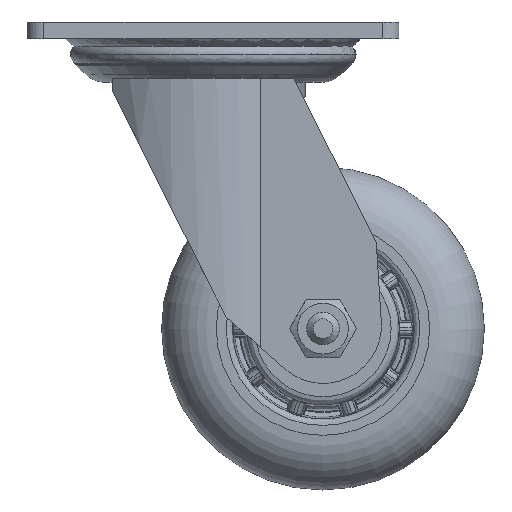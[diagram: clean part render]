
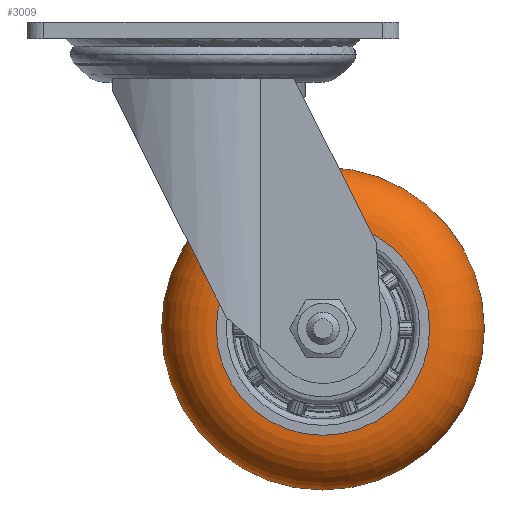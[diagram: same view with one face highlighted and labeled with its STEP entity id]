
A CAD part, front view. The second image highlights one B-rep face of the part: STEP entity #3009.
In plain terms, the highlighted toroidal (fillet/blend) face has major radius 33.066 mm and minor radius 16.934 mm.
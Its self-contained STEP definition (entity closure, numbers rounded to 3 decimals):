
#1221=TOROIDAL_SURFACE('',#15051,33.066,16.934);
#3009=ADVANCED_FACE('',(#4631,#4632),#1221,.T.);
#4322=CIRCLE('',#15016,33.066);
#4323=CIRCLE('',#15048,50.);
#4631=FACE_BOUND('',#5729,.T.);
#4632=FACE_BOUND('',#5730,.T.);
#5729=EDGE_LOOP('',(#9921));
#5730=EDGE_LOOP('',(#9922));
#9921=ORIENTED_EDGE('',*,*,#12878,.T.);
#9922=ORIENTED_EDGE('',*,*,#13349,.F.);
#11052=VERTEX_POINT('',#31759);
#11253=VERTEX_POINT('',#41012);
#12878=EDGE_CURVE('',#11052,#11052,#4322,.T.);
#13349=EDGE_CURVE('',#11253,#11253,#4323,.T.);
#15016=AXIS2_PLACEMENT_3D('',#31758,#16748,#16749);
#15048=AXIS2_PLACEMENT_3D('',#41011,#16912,#16913);
#15051=AXIS2_PLACEMENT_3D('',#41016,#16918,#16919);
#16748=DIRECTION('',(0.,1.,0.));
#16749=DIRECTION('',(-1.,0.,0.));
#16912=DIRECTION('',(0.,1.,0.));
#16913=DIRECTION('',(-1.,0.,0.));
#16918=DIRECTION('',(0.,-1.,0.));
#16919=DIRECTION('',(-1.,0.,0.));
#31758=CARTESIAN_POINT('',(34.,-22.5,-95.));
#31759=CARTESIAN_POINT('',(0.934,-22.5,-95.));
#41011=CARTESIAN_POINT('',(34.,-5.566,-95.));
#41012=CARTESIAN_POINT('',(-16.,-5.566,-95.));
#41016=CARTESIAN_POINT('',(34.,-5.566,-95.));
